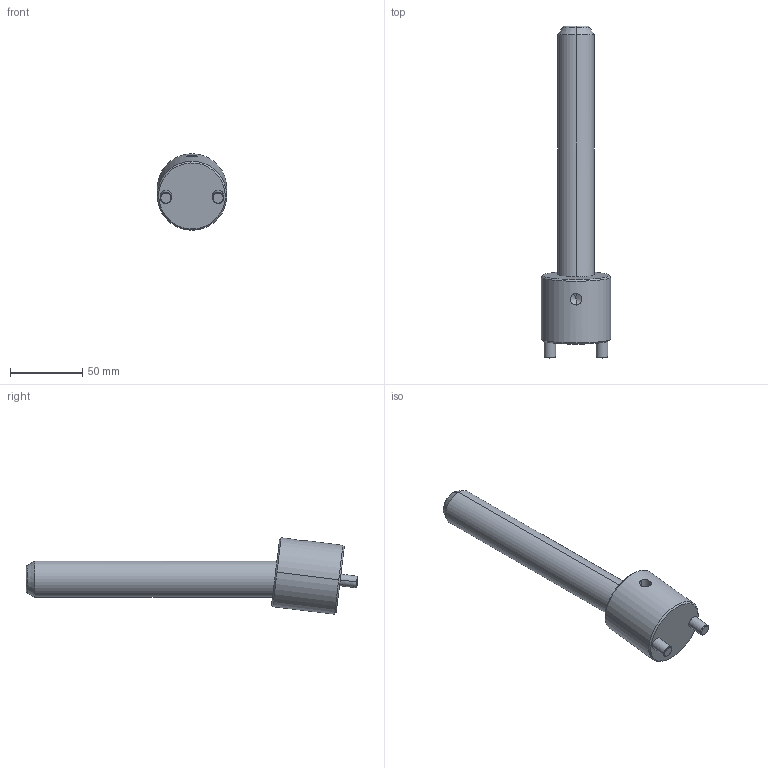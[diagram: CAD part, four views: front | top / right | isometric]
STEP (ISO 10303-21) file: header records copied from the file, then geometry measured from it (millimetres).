
FILE_DESCRIPTION(('CATIA V5 STEP Exchange'),'2;1');
FILE_NAME('C:\Users\Raffaele\Desktop\3D BOLEX\3D FILES CF BOLEX\19-INCLINED ASSEMBLY REF_CI\CI0725175.stp','2019-06-24T07:29:45+00:00',('none'),('none'),'CATIA Version 5 Release 20 GA (IN-10)','CATIA V5 STEP AP203','none');
FILE_SCHEMA(('CONFIG_CONTROL_DESIGN'));
Length unit declared in the file: millimetre
Products named in the file (1): CI0725175
Assembly tree (2 placements, depth 2):
  CI0725175
    #58
    #608
Bounding box: 48 x 229.61 x 52.88 mm (x, y, z)
Volume: 164939.6 mm3; surface area: 31368.7 mm2
Topology: 2 solids, 2 shells, 39 faces, 82 edges, 47 vertices
Faces by surface type: cone 14, cylinder 14, plane 7, torus 4
Entity records: 1533 total; most frequent: CARTESIAN_POINT 674, ORIENTED_EDGE 160, DIRECTION 145, EDGE_CURVE 80, AXIS2_PLACEMENT_3D 72, VERTEX_POINT 47, EDGE_LOOP 43, ADVANCED_FACE 39
